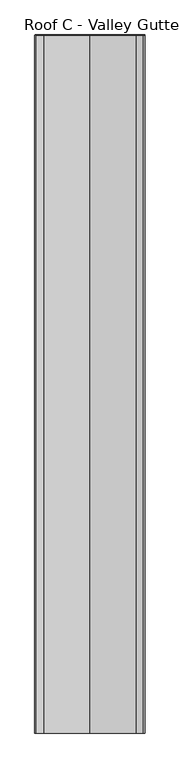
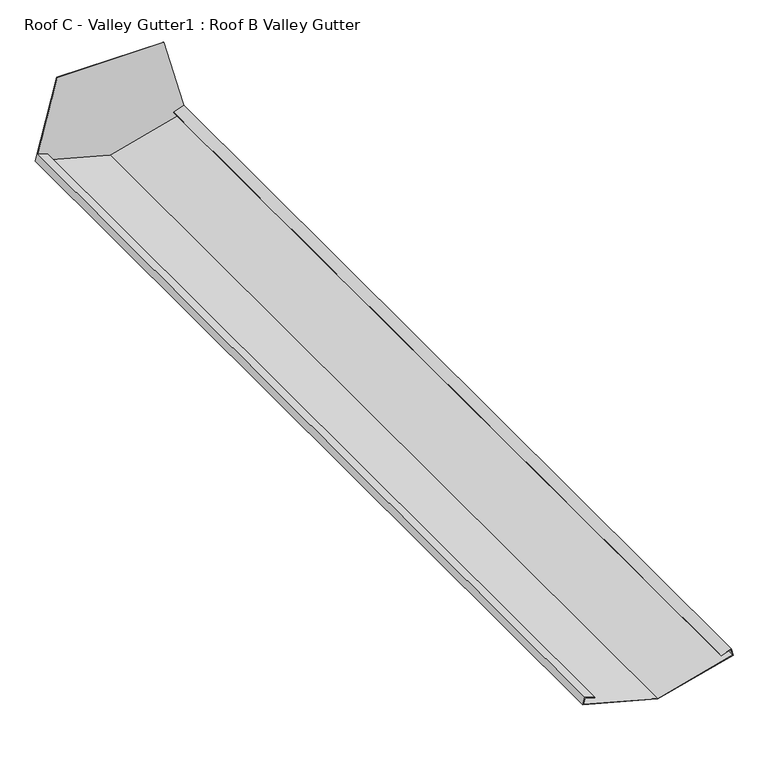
"""IFC4 building model written with IfcOpenShell, lengths in millimetres: proxy geometry, Roof C - Valley Gutter1 : Roof B Valley Gutter."""

from ifc_helpers import new_model, si_unit, frame, origin, place, context, project, spatial, polyline, outline, extrude, source, transform, mapped, element, save


def roof_c_valley_gutter1_roof_b_valley_gutter_6401df76(model_context):
    return source(origin(), model_context, "Body", "SweptSolid", [
        extrude(outline(polyline([(3179.1073801, -11061.0353159), (3236.1024544, -10848.3268029), (3461.1631719, -10908.6316404), (3461.1631719, -11206.6081603), (3234.3947466, -11267.3705767), (3179.1073801, -11061.0353159)])), frame((0.0, -22076.6704124, 0.0), z_axis=(0.0, 1.0, 0.0), x_axis=(0.0, 0.0, 1.0)), (0.0, 0.0, 1.0), 2.0),
        extrude(outline(polyline([(3236.8095612, -11266.7235291), (3255.0739547, -11261.8295996), (3245.1865999, -11234.6643155), (3246.1262925, -11234.3222954), (3256.3868968, -11262.513074), (3236.1024544, -11267.9482739), (3179.8838373, -11058.1375384), (3236.1024544, -10848.3268029), (3256.3868968, -10853.7620028), (3246.1262925, -10881.9527814), (3245.1865999, -10881.6107613), (3255.0739547, -10854.4454772), (3236.8095612, -10849.5515477), (3180.9191134, -11058.1375384), (3236.8095612, -11266.7235291)])), frame((0.0, -24726.1704124, 0.0), z_axis=(0.0, 1.0, 0.0), x_axis=(0.0, 0.0, 1.0)), (0.0, 0.0, 1.0), 2649.5),
    ])


if __name__ == "__main__":
    model = new_model("IFC4")
    model_context = context("Model", 3, world=origin())
    ifc_project = project(units=[si_unit("LENGTHUNIT", "METRE", prefix="MILLI")], contexts=[model_context])
    site = spatial("IfcSite", under=ifc_project)
    building = spatial("IfcBuilding", under=site)
    placement = place(None, origin())
    roof_c_valley_gutter1_roof_b_valley_gutter_shape = roof_c_valley_gutter1_roof_b_valley_gutter_6401df76(model_context)
    element("IfcBuildingElementProxy", 1, Name="Roof C - Valley Gutter1 : Roof B Valley Gutter", ObjectType="Roof C - Valley Gutter1 : Roof B Valley Gutter", at=placement, inside=building, context=model_context, shape_type="MappedRepresentation", body=[
        mapped(roof_c_valley_gutter1_roof_b_valley_gutter_shape, transform((0.0, 0.0, 0.0), x_axis=(1.0, 0.0, 0.0), y_axis=(0.0, 1.0, 0.0), z_axis=(0.0, 0.0, 1.0))),
    ])
    save(model, "model.ifc")
